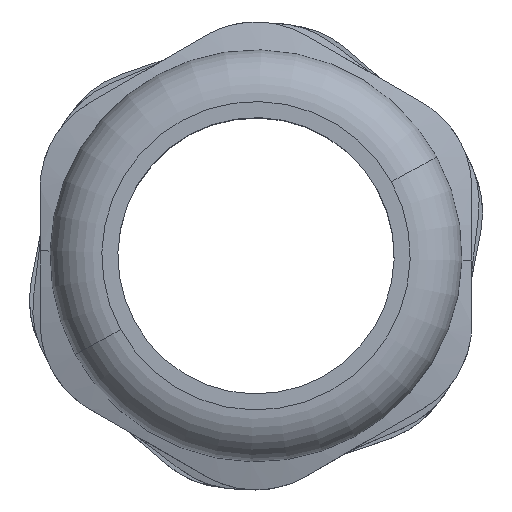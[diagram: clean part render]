
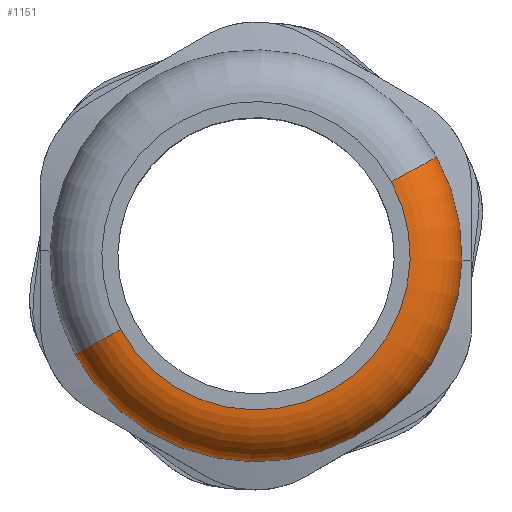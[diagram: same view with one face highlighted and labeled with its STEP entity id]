
A CAD part, top view. The second image highlights one B-rep face of the part: STEP entity #1151.
In plain terms, the highlighted toroidal (fillet/blend) face has major radius 12.5 mm and minor radius 4.2 mm.
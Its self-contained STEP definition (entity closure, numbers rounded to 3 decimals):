
#1086=CARTESIAN_POINT('Axis2P3D Location',(0.,0.,0.)) ;
#1090=CARTESIAN_POINT('Vertex',(-10.97,-5.993,0.)) ;
#1092=CARTESIAN_POINT('Vertex',(10.97,5.993,0.)) ;
#1121=CARTESIAN_POINT('Axis2P3D Location',(0.,0.,-4.2)) ;
#1126=CARTESIAN_POINT('Axis2P3D Location',(-10.97,-5.993,-4.2)) ;
#1130=CARTESIAN_POINT('Vertex',(-14.656,-8.006,-4.2)) ;
#1133=CARTESIAN_POINT('Axis2P3D Location',(0.,0.,-4.2)) ;
#1137=CARTESIAN_POINT('Vertex',(14.656,8.006,-4.2)) ;
#1140=CARTESIAN_POINT('Axis2P3D Location',(10.97,5.993,-4.2)) ;
#1087=DIRECTION('Axis2P3D Direction',(0.,0.,1.)) ;
#1122=DIRECTION('Axis2P3D Direction',(0.,0.,1.)) ;
#1123=DIRECTION('Axis2P3D XDirection',(0.878,0.479,0.)) ;
#1127=DIRECTION('Axis2P3D Direction',(-0.479,0.878,0.)) ;
#1134=DIRECTION('Axis2P3D Direction',(0.,0.,1.)) ;
#1141=DIRECTION('Axis2P3D Direction',(0.479,-0.878,0.)) ;
#1088=AXIS2_PLACEMENT_3D('Circle Axis2P3D',#1086,#1087,$) ;
#1124=AXIS2_PLACEMENT_3D('Torus Axis2P3D',#1121,#1122,#1123) ;
#1128=AXIS2_PLACEMENT_3D('Circle Axis2P3D',#1126,#1127,$) ;
#1135=AXIS2_PLACEMENT_3D('Circle Axis2P3D',#1133,#1134,$) ;
#1142=AXIS2_PLACEMENT_3D('Circle Axis2P3D',#1140,#1141,$) ;
#1146=ORIENTED_EDGE('',*,*,#1094,.F.) ;
#1147=ORIENTED_EDGE('',*,*,#1132,.T.) ;
#1148=ORIENTED_EDGE('',*,*,#1139,.T.) ;
#1149=ORIENTED_EDGE('',*,*,#1144,.F.) ;
#1151=ADVANCED_FACE('\X2\51E04F554F53\X0\.2',(#1150),#1125,.T.) ;
#1089=CIRCLE('generated circle',#1088,12.5) ;
#1129=CIRCLE('generated circle',#1128,4.2) ;
#1136=CIRCLE('generated circle',#1135,16.7) ;
#1143=CIRCLE('generated circle',#1142,4.2) ;
#1125=TOROIDAL_SURFACE('homeo Torus',#1124,12.5,4.2) ;
#1094=EDGE_CURVE('',#1091,#1093,#1089,.T.) ;
#1132=EDGE_CURVE('',#1091,#1131,#1129,.F.) ;
#1139=EDGE_CURVE('',#1131,#1138,#1136,.T.) ;
#1144=EDGE_CURVE('',#1093,#1138,#1143,.F.) ;
#1145=EDGE_LOOP('',(#1146,#1147,#1148,#1149)) ;
#1150=FACE_OUTER_BOUND('',#1145,.T.) ;
#1091=VERTEX_POINT('',#1090) ;
#1093=VERTEX_POINT('',#1092) ;
#1131=VERTEX_POINT('',#1130) ;
#1138=VERTEX_POINT('',#1137) ;
